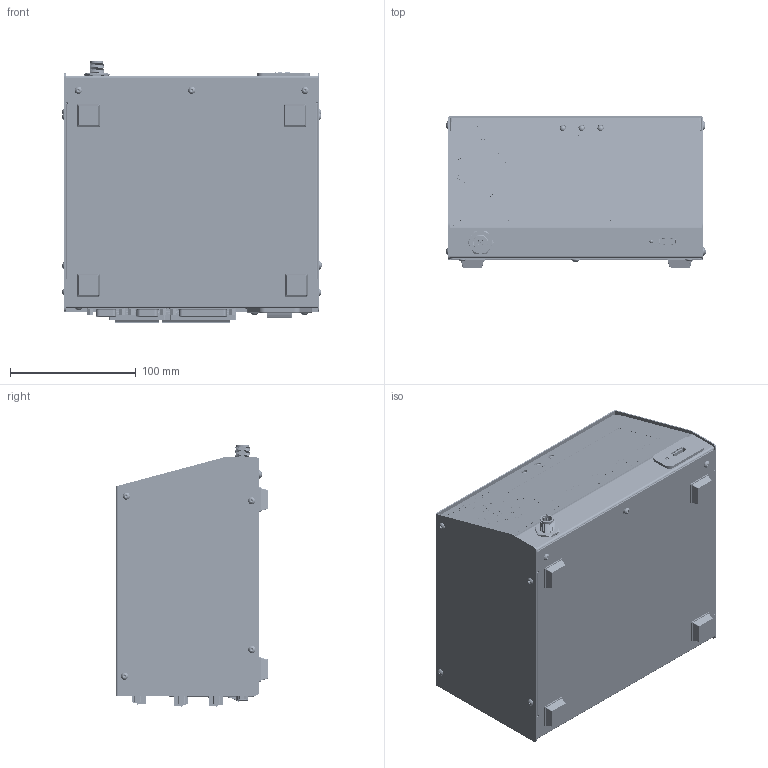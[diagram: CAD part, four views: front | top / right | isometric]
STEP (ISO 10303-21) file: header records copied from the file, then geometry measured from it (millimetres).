
FILE_DESCRIPTION (( 'STEP AP214' ), '1' );
FILE_NAME ('EDU2AE_TOP_E_SWITCHING.STEP', '2025-10-09T07:45:33', ( '' ), ( '' ), 'SwSTEP 2.0', 'SolidWorks 2024', '' );
FILE_SCHEMA (( 'AUTOMOTIVE_DESIGN' ));
Length unit declared in the file: millimetre
Products named in the file (1): EDU2AE_TOP_E_SWITCHING
Bounding box: 205.81 x 119.89 x 208.2 mm (x, y, z)
Surface area: 460378.2 mm2 (no closed solid volume)
Topology: 0 solids, 210 shells, 9378 faces, 24502 edges, 15885 vertices
Faces by surface type: plane 6034, cylinder 2335, bspline 575, cone 216, torus 112, sphere 106
Full cylindrical faces by diameter (mm): 0.457 x8, 0.6 x43, 1 x48, 1.2 x34, 1.25 x10, 1.45 x10, 1.5 x2, 1.6 x96, 1.75 x8, 1.8 x8, 2.4 x8, 2.5 x22, 2.8 x10, 2.845 x4, 2.863 x1, 2.9 x45, 3 x184, 3.1 x8, 3.2 x4, 3.25 x1, 3.35 x4, 3.4 x10, 3.5 x16, 3.8 x2, 3.9 x8, 4 x11, 4.5 x2, 4.6 x2, 5 x12, 5.7 x17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
Entity records: 418066 total; most frequent: CARTESIAN_POINT 97035, ORIENTED_EDGE 44755, DIRECTION 42644, EDGE_CURVE 22933, LINE 15840, VECTOR 15840, VERTEX_POINT 15421, AXIS2_PLACEMENT_3D 13402
